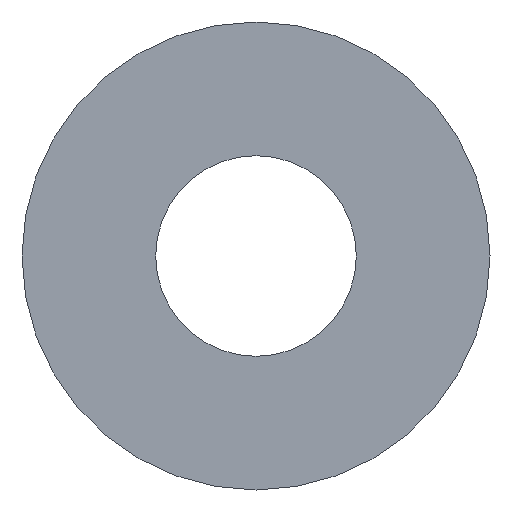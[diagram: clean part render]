
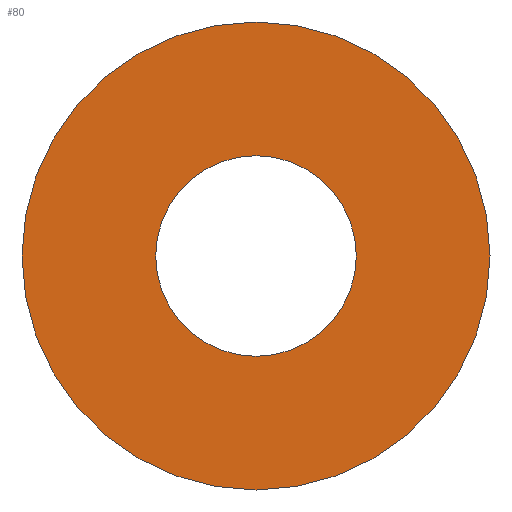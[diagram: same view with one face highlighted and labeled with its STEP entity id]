
A CAD part, left-side view. The second image highlights one B-rep face of the part: STEP entity #80.
In plain terms, the highlighted planar face has unit normal (-1, 0, 0).
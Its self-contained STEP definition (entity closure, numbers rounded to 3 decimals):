
#23=ORIENTED_EDGE('',*,*,#35,.F.);
#24=ORIENTED_EDGE('',*,*,#36,.T.);
#35=EDGE_CURVE('',#41,#41,#47,.T.);
#36=EDGE_CURVE('',#42,#42,#48,.T.);
#41=VERTEX_POINT('',#140);
#42=VERTEX_POINT('',#142);
#47=CIRCLE('',#100,7.);
#48=CIRCLE('',#101,3.);
#53=EDGE_LOOP('',(#23));
#54=EDGE_LOOP('',(#24));
#65=FACE_BOUND('',#53,.T.);
#66=FACE_BOUND('',#54,.T.);
#77=PLANE('',#99);
#80=ADVANCED_FACE('',(#65,#66),#77,.F.);
#99=AXIS2_PLACEMENT_3D('',#138,#113,#114);
#100=AXIS2_PLACEMENT_3D('',#139,#115,#116);
#101=AXIS2_PLACEMENT_3D('',#141,#117,#118);
#113=DIRECTION('',(1.,0.,0.));
#114=DIRECTION('',(0.,0.,-1.));
#115=DIRECTION('',(1.,0.,0.));
#116=DIRECTION('',(0.,0.,-1.));
#117=DIRECTION('',(1.,0.,0.));
#118=DIRECTION('',(0.,0.,-1.));
#138=CARTESIAN_POINT('',(0.,0.,0.));
#139=CARTESIAN_POINT('',(0.,0.,0.));
#140=CARTESIAN_POINT('',(0.,0.,-7.));
#141=CARTESIAN_POINT('',(0.,0.,0.));
#142=CARTESIAN_POINT('',(0.,0.,-3.));
